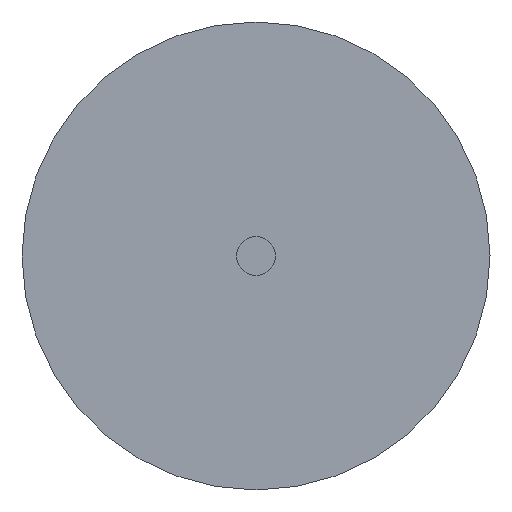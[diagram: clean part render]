
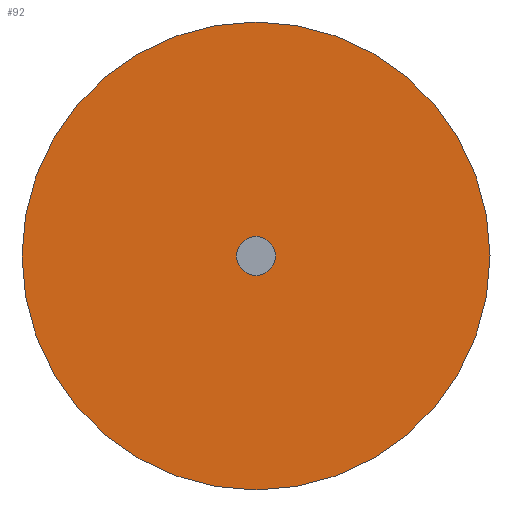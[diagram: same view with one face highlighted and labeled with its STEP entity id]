
A CAD part, left-side view. The second image highlights one B-rep face of the part: STEP entity #92.
In plain terms, the highlighted planar face has unit normal (-1, 0, 0).
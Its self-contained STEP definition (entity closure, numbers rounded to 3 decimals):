
#16=PLANE('',#107);
#26=FACE_OUTER_BOUND('',#36,.T.);
#36=EDGE_LOOP('',(#66));
#47=CIRCLE('',#106,6.095);
#53=VERTEX_POINT('',#155);
#59=EDGE_CURVE('',#53,#53,#47,.T.);
#66=ORIENTED_EDGE('',*,*,#59,.T.);
#92=ADVANCED_FACE('',(#26),#16,.F.);
#106=AXIS2_PLACEMENT_3D('',#156,#125,#126);
#107=AXIS2_PLACEMENT_3D('',#157,#127,#128);
#125=DIRECTION('center_axis',(-1.,0.,0.));
#126=DIRECTION('ref_axis',(0.,-1.,0.));
#127=DIRECTION('center_axis',(1.,0.,0.));
#128=DIRECTION('ref_axis',(0.,0.,-1.));
#155=CARTESIAN_POINT('',(0.,6.095,0.));
#156=CARTESIAN_POINT('Origin',(0.,0.,0.));
#157=CARTESIAN_POINT('Origin',(0.,0.,0.));
